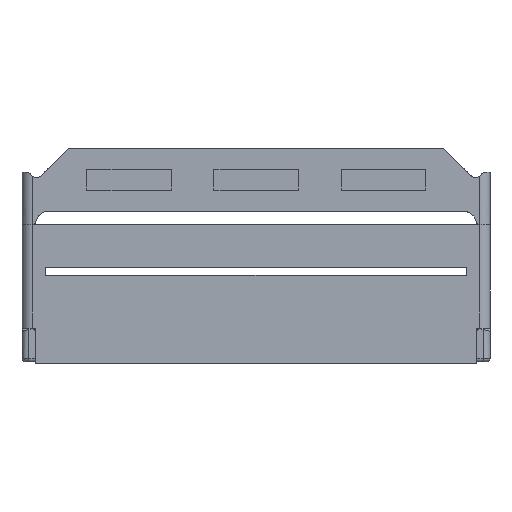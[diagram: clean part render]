
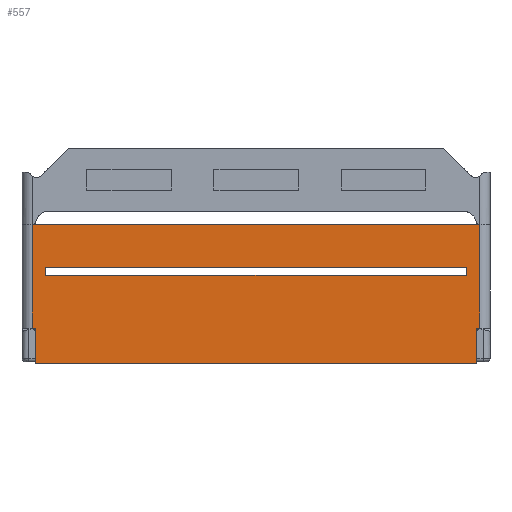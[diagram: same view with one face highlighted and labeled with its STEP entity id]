
A CAD part, left-side view. The second image highlights one B-rep face of the part: STEP entity #557.
In plain terms, the highlighted planar face has unit normal (-1, 0, 0).
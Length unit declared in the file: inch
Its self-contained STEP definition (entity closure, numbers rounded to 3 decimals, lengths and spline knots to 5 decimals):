
#300=FACE_BOUND('',#1534,.T.);
#557=ADVANCED_FACE('',(#1160,#300),#842,.T.);
#842=PLANE('',#6862);
#1160=FACE_OUTER_BOUND('',#1533,.T.);
#1533=EDGE_LOOP('',(#3053,#3054,#3055,#3056,#3057,#3058,#3059,#3060));
#1534=EDGE_LOOP('',(#3061,#3062,#3063,#3064));
#3053=ORIENTED_EDGE('',*,*,#4181,.T.);
#3054=ORIENTED_EDGE('',*,*,#4517,.T.);
#3055=ORIENTED_EDGE('',*,*,#4460,.T.);
#3056=ORIENTED_EDGE('',*,*,#4934,.T.);
#3057=ORIENTED_EDGE('',*,*,#4916,.T.);
#3058=ORIENTED_EDGE('',*,*,#4902,.F.);
#3059=ORIENTED_EDGE('',*,*,#4906,.F.);
#3060=ORIENTED_EDGE('',*,*,#4400,.T.);
#3061=ORIENTED_EDGE('',*,*,#4935,.T.);
#3062=ORIENTED_EDGE('',*,*,#4936,.T.);
#3063=ORIENTED_EDGE('',*,*,#4937,.F.);
#3064=ORIENTED_EDGE('',*,*,#4938,.F.);
#3581=VERTEX_POINT('',#8542);
#3582=VERTEX_POINT('',#8544);
#3755=VERTEX_POINT('',#9521);
#3795=VERTEX_POINT('',#9822);
#3796=VERTEX_POINT('',#9824);
#4075=VERTEX_POINT('',#11154);
#4076=VERTEX_POINT('',#11156);
#4086=VERTEX_POINT('',#11186);
#4099=VERTEX_POINT('',#11220);
#4100=VERTEX_POINT('',#11221);
#4101=VERTEX_POINT('',#11223);
#4102=VERTEX_POINT('',#11225);
#4181=EDGE_CURVE('',#3582,#3581,#5107,.T.);
#4400=EDGE_CURVE('',#3755,#3582,#5237,.T.);
#4460=EDGE_CURVE('',#3796,#3795,#5270,.T.);
#4517=EDGE_CURVE('',#3581,#3796,#5307,.T.);
#4902=EDGE_CURVE('',#4075,#4076,#5667,.T.);
#4906=EDGE_CURVE('',#3755,#4075,#5669,.T.);
#4916=EDGE_CURVE('',#4086,#4076,#5679,.T.);
#4934=EDGE_CURVE('',#3795,#4086,#5697,.T.);
#4935=EDGE_CURVE('',#4099,#4100,#5698,.T.);
#4936=EDGE_CURVE('',#4100,#4101,#5699,.T.);
#4937=EDGE_CURVE('',#4102,#4101,#5700,.T.);
#4938=EDGE_CURVE('',#4099,#4102,#5701,.T.);
#5107=LINE('',#8543,#5847);
#5237=LINE('',#9523,#5977);
#5270=LINE('',#9823,#6010);
#5307=LINE('',#10066,#6047);
#5667=LINE('',#11155,#6407);
#5669=LINE('',#11165,#6409);
#5679=LINE('',#11185,#6419);
#5697=LINE('',#11218,#6437);
#5698=LINE('',#11219,#6438);
#5699=LINE('',#11222,#6439);
#5700=LINE('',#11224,#6440);
#5701=LINE('',#11226,#6441);
#5847=VECTOR('',#6995,1.);
#5977=VECTOR('',#7265,1.);
#6010=VECTOR('',#7342,1.);
#6047=VECTOR('',#7409,1.);
#6407=VECTOR('',#8097,1.);
#6409=VECTOR('',#8103,1.);
#6419=VECTOR('',#8115,1.);
#6437=VECTOR('',#8137,1.);
#6438=VECTOR('',#8138,1.);
#6439=VECTOR('',#8139,1.);
#6440=VECTOR('',#8140,1.);
#6441=VECTOR('',#8141,1.);
#6862=AXIS2_PLACEMENT_3D('',#11227,#8142,#8143);
#6995=DIRECTION('',(0.,1.,0.));
#7265=DIRECTION('',(0.,0.,1.));
#7342=DIRECTION('',(0.,-1.,0.));
#7409=DIRECTION('',(0.,0.,-1.));
#8097=DIRECTION('',(0.,0.,-1.));
#8103=DIRECTION('',(0.,1.,0.));
#8115=DIRECTION('',(0.,-1.,0.));
#8137=DIRECTION('',(0.,0.,-1.));
#8138=DIRECTION('',(0.,0.,-1.));
#8139=DIRECTION('',(0.,1.,0.));
#8140=DIRECTION('',(0.,0.,-1.));
#8141=DIRECTION('',(0.,1.,0.));
#8142=DIRECTION('',(-1.,0.,0.));
#8143=DIRECTION('',(0.,0.,1.));
#8542=CARTESIAN_POINT('',(0.,1.35,0.41));
#8543=CARTESIAN_POINT('',(0.,0.03,0.41));
#8544=CARTESIAN_POINT('',(0.,0.03,0.41));
#9521=CARTESIAN_POINT('',(0.,0.03,0.105));
#9523=CARTESIAN_POINT('',(0.,0.03,0.105));
#9822=CARTESIAN_POINT('',(0.,1.341,0.105));
#9823=CARTESIAN_POINT('',(0.,1.35,0.105));
#9824=CARTESIAN_POINT('',(0.,1.35,0.105));
#10066=CARTESIAN_POINT('',(0.,1.35,0.41));
#11154=CARTESIAN_POINT('',(0.,0.039,0.105));
#11155=CARTESIAN_POINT('',(0.,0.039,0.105));
#11156=CARTESIAN_POINT('',(0.,0.039,0.));
#11165=CARTESIAN_POINT('',(0.,0.03,0.105));
#11185=CARTESIAN_POINT('',(0.,1.341,0.));
#11186=CARTESIAN_POINT('',(0.,1.341,0.));
#11218=CARTESIAN_POINT('',(0.,1.341,0.105));
#11219=CARTESIAN_POINT('',(0.,0.07,0.284));
#11220=CARTESIAN_POINT('',(0.,0.07,0.284));
#11221=CARTESIAN_POINT('',(0.,0.07,0.26));
#11222=CARTESIAN_POINT('',(0.,0.07,0.26));
#11223=CARTESIAN_POINT('',(0.,1.31,0.26));
#11224=CARTESIAN_POINT('',(0.,1.31,0.284));
#11225=CARTESIAN_POINT('',(0.,1.31,0.284));
#11226=CARTESIAN_POINT('',(0.,0.07,0.284));
#11227=CARTESIAN_POINT('',(0.,0.69,0.));
